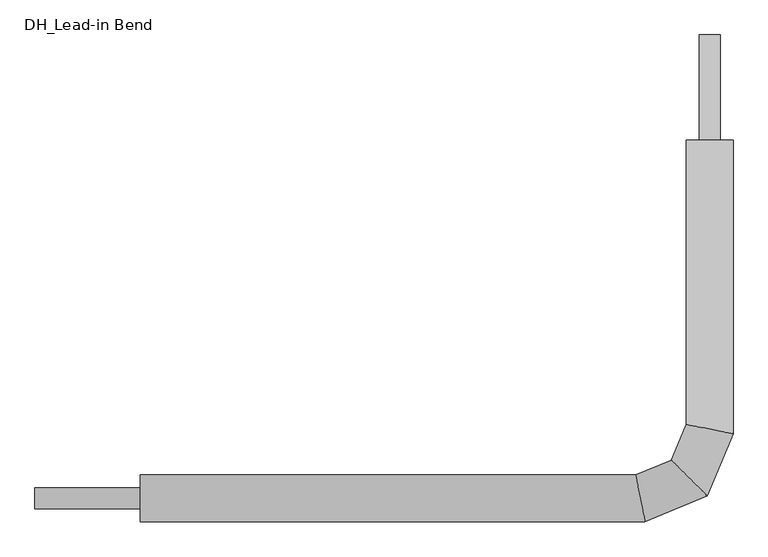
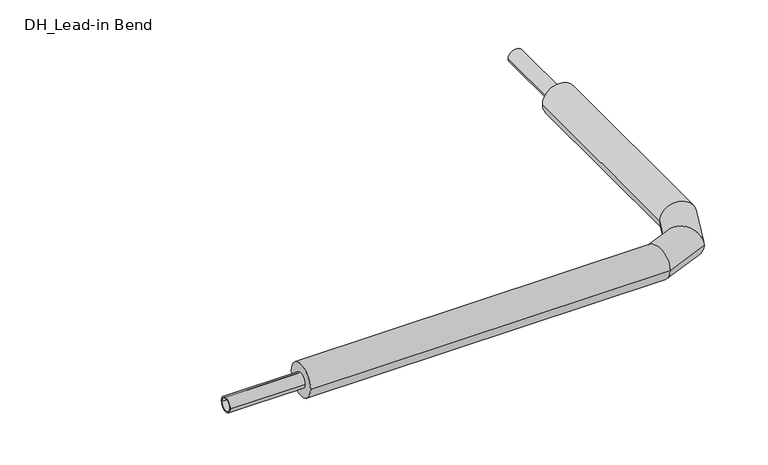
"""IFC4 building model written with IfcOpenShell, lengths in millimetres: pipe fitting geometry, DH_Lead-in Bend : RVT/RVX/RTX UNO 11 Heating."""

import ifcopenshell
import ifcopenshell.guid

model = None  # the IFC model being written
_history = None  # IfcOwnerHistory: only IFC2X3 demands one
_inside = {}  # id of a spatial element -> (the spatial element, [elements in it])
_under = {}  # id of a project, library or spatial element -> (it, [spatial elements below it])
_declared = {}  # id of a project -> (the project, [libraries it declares])
_typed = {}  # id of a type object -> (the type object, [elements of that type])
_made_of = {}  # id of a material, layer set ... -> (it, [elements and type objects made of it])


def new_model(schema):
    """Start an empty IFC model of exactly this schema.

    Asked for "IFC4X3", IfcOpenShell would pick the latest addendum, in which some entities
    have other attributes; the version numbers below select the first issue.
    IFC2X3 requires an IfcOwnerHistory on every rooted entity: one is made here for all.
    """
    global model, _history
    if schema == "IFC4X3":
        model = ifcopenshell.file(schema_version=(4, 3, 0, 0))
    else:
        model = ifcopenshell.file(schema=schema)
    _inside.clear()
    _under.clear()
    _declared.clear()
    _typed.clear()
    _made_of.clear()
    _history = None
    if model.schema == "IFC2X3":
        org = make("IfcOrganization", Name="unknown")
        user = make(
            "IfcPersonAndOrganization",
            ThePerson=make("IfcPerson", FamilyName="unknown"),
            TheOrganization=org,
        )
        app = make(
            "IfcApplication",
            ApplicationDeveloper=org,
            Version="unknown",
            ApplicationFullName="unknown",
            ApplicationIdentifier="unknown",
        )
        _history = make(
            "IfcOwnerHistory",
            OwningUser=user,
            OwningApplication=app,
            ChangeAction="ADDED",
            CreationDate=0,
        )
    return model


def make(cls, **values):
    """One entity of the class cls with the attributes given. An attribute that is None is left unset."""
    return model.create_entity(
        cls, **{name: value for name, value in values.items() if value is not None}
    )


def rooted(cls, **values):
    """An entity with a GlobalId (a new one), such as an element, a storey or a relation."""
    return make(cls, GlobalId=ifcopenshell.guid.new(), OwnerHistory=_history, **values)


def si_unit(unit_type, name, prefix=None):
    """IfcSIUnit, for example si_unit("LENGTHUNIT", "METRE", prefix="MILLI")."""
    return make("IfcSIUnit", UnitType=unit_type, Prefix=prefix, Name=name)


def assignment(units):
    """IfcUnitAssignment: the units of a project."""
    return None if units is None else make("IfcUnitAssignment", Units=units)


def point(xyz):
    """IfcCartesianPoint."""
    return None if xyz is None else make("IfcCartesianPoint", Coordinates=xyz)


def direction(xyz):
    """IfcDirection."""
    return None if xyz is None else make("IfcDirection", DirectionRatios=xyz)


def frame(location, z_axis=None, x_axis=None):
    """IfcAxis2Placement3D, a coordinate frame: its origin and axes. An axis left out is left unset."""
    return make(
        "IfcAxis2Placement3D",
        Location=point(location),
        Axis=direction(z_axis),
        RefDirection=direction(x_axis),
    )


def frame_2d(location, x_axis=None):
    """IfcAxis2Placement2D, a coordinate frame in the plane: its origin and x axis."""
    return make(
        "IfcAxis2Placement2D", Location=point(location), RefDirection=direction(x_axis)
    )


def origin():
    """The frame at (0, 0, 0) with its axes left unset."""
    return frame((0.0, 0.0, 0.0))


def origin_2d():
    """The frame at (0, 0) in the plane with its x axis left unset."""
    return frame_2d((0.0, 0.0))


def place(relative_to, where):
    """IfcLocalPlacement: puts the frame where relative to a parent placement (None: the world)."""
    return make(
        "IfcLocalPlacement", PlacementRelTo=relative_to, RelativePlacement=where
    )


def context(
    kind, dimensions, precision=None, world=None, true_north=None, identifier=None
):
    """IfcGeometricRepresentationContext, for example the 3D "Model" context."""
    return make(
        "IfcGeometricRepresentationContext",
        ContextIdentifier=identifier,
        ContextType=kind,
        CoordinateSpaceDimension=dimensions,
        Precision=precision,
        WorldCoordinateSystem=world,
        TrueNorth=true_north,
    )


def project(units=None, contexts=None):
    """IfcProject with its units and contexts."""
    return rooted(
        "IfcProject",
        Name="project",
        RepresentationContexts=contexts,
        UnitsInContext=assignment(units),
    )


def spatial(cls, under=None, at=None, **own):
    """A site, building, storey or space (cls), placed at a placement, below another one or the project."""
    s = rooted(cls, ObjectPlacement=at, **own)
    if under is not None:
        _under.setdefault(under.id(), (under, []))[1].append(s)
    return s


def circle_curve(where, radius):
    """IfcCircle in the frame where."""
    return make("IfcCircle", Position=where, Radius=radius)


def ellipse_curve(where, semi_axis1, semi_axis2):
    """IfcEllipse in the frame where."""
    return make(
        "IfcEllipse", Position=where, SemiAxis1=semi_axis1, SemiAxis2=semi_axis2
    )


def trimmed(basis, trim1, trim2, sense, master):
    """IfcTrimmedCurve: the piece of a basis curve between two trims."""
    return make(
        "IfcTrimmedCurve",
        BasisCurve=basis,
        Trim1=trim1,
        Trim2=trim2,
        SenseAgreement=sense,
        MasterRepresentation=master,
    )


def segment(curve, same_sense, transition):
    """IfcCompositeCurveSegment."""
    return make(
        "IfcCompositeCurveSegment",
        Transition=transition,
        SameSense=same_sense,
        ParentCurve=curve,
    )


def composite_curve(segments, self_intersect=None):
    """IfcCompositeCurve: segments joined end to end."""
    return make("IfcCompositeCurve", Segments=segments, SelfIntersect=self_intersect)


def outline(outer, holes=None, kind="AREA"):
    """IfcArbitraryClosedProfileDef: a profile drawn as a closed curve; with holes, ...WithVoids."""
    if holes is None:
        return make("IfcArbitraryClosedProfileDef", ProfileType=kind, OuterCurve=outer)
    return make(
        "IfcArbitraryProfileDefWithVoids",
        ProfileType=kind,
        OuterCurve=outer,
        InnerCurves=holes,
    )


def extrude(swept, where, along, depth):
    """IfcExtrudedAreaSolid: the profile swept, set in the frame where, extruded along a direction by depth."""
    return make(
        "IfcExtrudedAreaSolid",
        SweptArea=swept,
        Position=where,
        ExtrudedDirection=direction(along),
        Depth=depth,
    )


def shape(context_of_items, identifier, shape_type, items):
    """IfcShapeRepresentation: the items that make up one representation, for example the "Body"."""
    return make(
        "IfcShapeRepresentation",
        ContextOfItems=context_of_items,
        RepresentationIdentifier=identifier,
        RepresentationType=shape_type,
        Items=items,
    )


def source(mapping_origin, context_of_items, identifier, shape_type, items):
    """IfcRepresentationMap: a shape defined once, which mapped items show again and again."""
    return make(
        "IfcRepresentationMap",
        MappingOrigin=mapping_origin,
        MappedRepresentation=shape(context_of_items, identifier, shape_type, items),
    )


def transform(
    local_origin,
    x_axis=None,
    y_axis=None,
    z_axis=None,
    scale=None,
    scale2=None,
    scale3=None,
    uniform=True,
):
    """IfcCartesianTransformationOperator3D, or its non-uniform kind. x_axis, y_axis, z_axis: its Axis1, 2, 3."""
    if uniform:
        return make(
            "IfcCartesianTransformationOperator3D",
            Axis1=direction(x_axis),
            Axis2=direction(y_axis),
            LocalOrigin=point(local_origin),
            Scale=scale,
            Axis3=direction(z_axis),
        )
    return make(
        "IfcCartesianTransformationOperator3DnonUniform",
        Axis1=direction(x_axis),
        Axis2=direction(y_axis),
        LocalOrigin=point(local_origin),
        Scale=scale,
        Axis3=direction(z_axis),
        Scale2=scale2,
        Scale3=scale3,
    )


def mapped(mapping_source, mapping_target):
    """IfcMappedItem: shows the shape of a source again, moved by a transform."""
    return make(
        "IfcMappedItem", MappingSource=mapping_source, MappingTarget=mapping_target
    )


def made_of(thing, what):
    """Note that an element or type object is made of a material, layer set ...; save() writes the relation."""
    if what is not None:
        _made_of.setdefault(what.id(), (what, []))[1].append(thing)
    return thing


def element(
    cls,
    number,
    at=None,
    inside=None,
    cuts=None,
    type_object=None,
    material=None,
    context=None,
    identifier="Body",
    shape_type=None,
    held_by="IfcProductDefinitionShape",
    body=None,
    shapes=None,
    **own,
):
    """One element of the class cls, such as IfcWall. Its Tag is "e" and its number.

    at: its placement. inside: the storey or other place that contains it. cuts: it is an
    opening in that element (IfcRelVoidsElement). A single representation is given by context,
    identifier, shape_type and body (its items); several are given by shapes. held_by: the class
    of the entity that holds the representations. save() writes the other relations.
    """
    e = rooted(cls, Tag="e%d" % number, ObjectPlacement=at, **own)
    if body is not None:
        shapes = [shape(context, identifier, shape_type, body)]
    if shapes is not None:
        e.Representation = make(held_by, Representations=shapes)
    if inside is not None:
        _inside.setdefault(inside.id(), (inside, []))[1].append(e)
    if cuts is not None:
        rooted(
            "IfcRelVoidsElement", RelatingBuildingElement=cuts, RelatedOpeningElement=e
        )
    if type_object is not None:
        _typed.setdefault(type_object.id(), (type_object, []))[1].append(e)
    return made_of(e, material)


def aggregate(whole, parts):
    """IfcRelAggregates: a whole, such as a stair, and the parts it consists of."""
    return rooted("IfcRelAggregates", RelatingObject=whole, RelatedObjects=parts)


def save(model, path):
    """Write the relations noted so far, then the file.

    IfcRelAggregates (storeys below a building ...), IfcRelContainedInSpatialStructure (elements
    in a storey), IfcRelDefinesByType, IfcRelAssociatesMaterial and IfcRelDeclares: one each for
    every whole, place, type object, material and project.
    """
    for whole, parts in _under.values():
        aggregate(whole, parts)
    for where, things in _inside.values():
        rooted(
            "IfcRelContainedInSpatialStructure",
            RelatedElements=things,
            RelatingStructure=where,
        )
    for kind, things in _typed.values():
        rooted("IfcRelDefinesByType", RelatedObjects=things, RelatingType=kind)
    for what, things in _made_of.values():
        rooted("IfcRelAssociatesMaterial", RelatedObjects=things, RelatingMaterial=what)
    for by, libraries in _declared.values():
        rooted("IfcRelDeclares", RelatingContext=by, RelatedDefinitions=libraries)
    model.write(path)


def plane_surface(at):
    """IfcPlane: the flat surface through the origin of the frame at, square to its z axis."""
    return make("IfcPlane", Position=at)


def cylinder_surface(at, radius):
    """IfcCylindricalSurface: all points at the distance radius from the z axis of the frame at."""
    return make("IfcCylindricalSurface", Position=at, Radius=radius)


def advanced_brep(points, edges, surfaces, faces):
    """IfcAdvancedBrep: a solid bounded by faces that lie on surfaces and meet in shared edges.

    An edge is (start, end): straight between two places in points (the first is 0);
    or (start, end, curve); or (start, end, curve, False) where it runs against its curve.
    A face is (place in surfaces, loops), or (place, loops, False) where it looks against
    its surface's normal. A loop lists edges by number (the first is 1), with a minus sign
    where the edge is run from its end to its start. The first loop is the outer one.
    """
    corners = [point(p) for p in points]
    vertices = [make("IfcVertexPoint", VertexGeometry=c) for c in corners]
    made = []
    for start, end, *more in edges:
        made.append(
            make(
                "IfcEdgeCurve",
                EdgeStart=vertices[start],
                EdgeEnd=vertices[end],
                EdgeGeometry=more[0] if more else make("IfcPolyline", Points=[corners[start], corners[end]]),
                SameSense=more[1] if len(more) > 1 else True,
            )
        )
    hull = []
    for where, loops, *sense in faces:
        bounds = []
        for j, loop in enumerate(loops):
            ring = [make("IfcOrientedEdge", EdgeElement=made[abs(k) - 1], Orientation=k > 0) for k in loop]
            bounds.append(
                make(
                    "IfcFaceOuterBound" if j == 0 else "IfcFaceBound",
                    Bound=make("IfcEdgeLoop", EdgeList=ring),
                    Orientation=True,
                )
            )
        hull.append(make("IfcAdvancedFace", Bounds=bounds, FaceSurface=surfaces[where], SameSense=sense[0] if sense else True))
    return make("IfcAdvancedBrep", Outer=make("IfcClosedShell", CfsFaces=hull))


def dh_lead_in_bend_f3e9e936(model_context):
    return source(origin(), model_context, "Body", "SolidModel", [
        advanced_brep(
        [(-1350.0, -55.5, 0.0), (-1350.0, 55.5, 0.0), (-153.5603636, -55.5, 0.0), (-175.6396364, 55.5, 0.0), (55.5, 850.0, 0.0), (-55.5, 850.0, 0.0), (-55.5, 175.6396364, 0.0), (55.5, 153.5603636, 0.0), (-5.7323628, 5.7323628, 0.0), (-90.6880848, 90.6880848, 0.0)],
        [
            (0, 1, circle_curve(frame((-1350.0, 0.0, 0.0), z_axis=(-1.0, 0.0, 0.0), x_axis=(0.0, 1.0, 0.0)), 55.5)),
            (1, 0, circle_curve(frame((-1350.0, 0.0, 0.0), z_axis=(-1.0, 0.0, 0.0), x_axis=(0.0, 1.0, 0.0)), 55.5)),
            (0, 2),
            (2, 3, ellipse_curve(frame((-164.6, 0.0, 0.0), z_axis=(-0.9807852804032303, -0.1950903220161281, 0.0), x_axis=(-0.1950903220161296, 0.9807852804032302, 0.0)), 56.5873093, 55.5)),
            (3, 1),
            (3, 2, ellipse_curve(frame((-164.6, 0.0, 0.0), z_axis=(-0.9807852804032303, -0.1950903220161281, 0.0), x_axis=(-0.1950903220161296, 0.9807852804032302, 0.0)), 56.5873093, 55.5)),
            (4, 5, circle_curve(frame((0.0, 850.0, 0.0), z_axis=(0.0, 1.0, 0.0), x_axis=(-1.0, 0.0, 0.0)), 55.5)),
            (5, 4, circle_curve(frame((0.0, 850.0, 0.0), z_axis=(0.0, 1.0, 0.0), x_axis=(-1.0, 0.0, 0.0)), 55.5)),
            (6, 7, ellipse_curve(frame((0.0, 164.6, 0.0), z_axis=(0.19509032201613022, 0.9807852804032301, 0.0), x_axis=(0.9807852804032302, -0.1950903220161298, 0.0)), 56.5873093, 55.5)),
            (7, 4),
            (5, 6),
            (7, 6, ellipse_curve(frame((0.0, 164.6, 0.0), z_axis=(0.19509032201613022, 0.9807852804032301, 0.0), x_axis=(0.9807852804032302, -0.1950903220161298, 0.0)), 56.5873093, 55.5)),
            (2, 8),
            (8, 9, ellipse_curve(frame((-48.2102238, 48.2102238, 0.0), z_axis=(-0.707106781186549, -0.707106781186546, 0.0), x_axis=(-0.707106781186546, 0.7071067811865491, 0.0)), 60.0727671, 55.5)),
            (9, 3),
            (9, 8, ellipse_curve(frame((-48.2102238, 48.2102238, 0.0), z_axis=(-0.707106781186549, -0.707106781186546, 0.0), x_axis=(-0.707106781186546, 0.7071067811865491, 0.0)), 60.0727671, 55.5)),
            (8, 7),
            (6, 9),
        ],
        [
            plane_surface(frame((-1350.0, 0.0, 0.0), z_axis=(-1.0, 0.0, 0.0), x_axis=(0.0, 0.0, 1.0))),
            cylinder_surface(frame((-1350.0, 0.0, 0.0), z_axis=(-1.0, 0.0, 0.0), x_axis=(0.0, 1.0, 0.0)), 55.5),
            plane_surface(frame((0.0, 850.0, 0.0), z_axis=(0.0, 1.0, 0.0), x_axis=(0.0, 0.0, 1.0))),
            cylinder_surface(frame((0.0, 164.6, 0.0), z_axis=(0.0, -1.0, 0.0), x_axis=(-1.0, 0.0, 0.0)), 55.5),
            cylinder_surface(frame((-164.6, 0.0, 0.0), z_axis=(-0.9238795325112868, -0.38268343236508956, 0.0), x_axis=(-0.38268343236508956, 0.9238795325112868, 0.0)), 55.5),
            cylinder_surface(frame((-48.2102238, 48.2102238, 0.0), z_axis=(-0.38268343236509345, -0.9238795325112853, 0.0), x_axis=(-0.9238795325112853, 0.38268343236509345, 0.0)), 55.5),
        ],
        [
            (0, [[1, 2]]),
            (1, [[-1, 3, 4, 5]]),
            (1, [[-2, -5, 6, -3]]),
            (2, [[7, 8]]),
            (3, [[9, 10, -8, 11]]),
            (3, [[12, -11, -7, -10]]),
            (4, [[-4, 13, 14, 15]]),
            (4, [[-6, -15, 16, -13]]),
            (5, [[-14, 17, -9, 18]]),
            (5, [[-16, -18, -12, -17]]),
        ],
    ),
        extrude(outline(composite_curve([segment(trimmed(circle_curve(origin_2d(), 25.0), [point((-25.0, 0.0))], [point((25.0, 0.0))], False, "CARTESIAN"), True, "CONTINUOUS"), segment(trimmed(circle_curve(origin_2d(), 25.0), [point((25.0, 0.0))], [point((-25.0, 0.0))], False, "CARTESIAN"), True, "CONTINUOUS")], self_intersect=False), holes=[composite_curve([segment(trimmed(circle_curve(origin_2d(), 20.4), [point((-20.4, 0.0))], [point((20.4, 0.0))], True, "CARTESIAN"), True, "CONTINUOUS"), segment(trimmed(circle_curve(origin_2d(), 20.4), [point((20.4, 0.0))], [point((-20.4, 0.0))], True, "CARTESIAN"), True, "CONTINUOUS")], self_intersect=False)]), frame((-1600.0, 0.0, 0.0), z_axis=(1.0, 0.0, 0.0), x_axis=(0.0, 1.0, 0.0)), (0.0, 0.0, 1.0), 250.0),
        extrude(outline(composite_curve([segment(trimmed(circle_curve(origin_2d(), 25.0), [point((0.0, 25.0))], [point((0.0, -25.0))], False, "CARTESIAN"), True, "CONTINUOUS"), segment(trimmed(circle_curve(origin_2d(), 25.0), [point((0.0, -25.0))], [point((0.0, 25.0))], False, "CARTESIAN"), True, "CONTINUOUS")], self_intersect=False), holes=[composite_curve([segment(trimmed(circle_curve(origin_2d(), 20.4), [point((0.0, 20.4))], [point((0.0, -20.4))], True, "CARTESIAN"), True, "CONTINUOUS"), segment(trimmed(circle_curve(origin_2d(), 20.4), [point((0.0, -20.4))], [point((0.0, 20.4))], True, "CARTESIAN"), True, "CONTINUOUS")], self_intersect=False)]), frame((0.0, 850.0, 0.0), z_axis=(0.0, 1.0, 0.0), x_axis=(0.0, 0.0, 1.0)), (0.0, 0.0, 1.0), 250.0),
    ])


if __name__ == "__main__":
    model = new_model("IFC4")
    model_context = context("Model", 3, world=origin())
    ifc_project = project(units=[si_unit("LENGTHUNIT", "METRE", prefix="MILLI")], contexts=[model_context])
    site = spatial("IfcSite", under=ifc_project)
    building = spatial("IfcBuilding", under=site)
    placement = place(None, origin())
    dh_lead_in_bend_shape = dh_lead_in_bend_f3e9e936(model_context)
    element("IfcPipeFitting", 1, ObjectType="DH_Lead-in Bend : RVT/RVX/RTX UNO 11 Heating", at=placement, inside=building, context=model_context, shape_type="MappedRepresentation", body=[
        mapped(dh_lead_in_bend_shape, transform((0.0, 0.0, 0.0), x_axis=(1.0, 0.0, 0.0), y_axis=(0.0, 1.0, 0.0), z_axis=(0.0, 0.0, 1.0))),
    ])
    save(model, "model.ifc")
